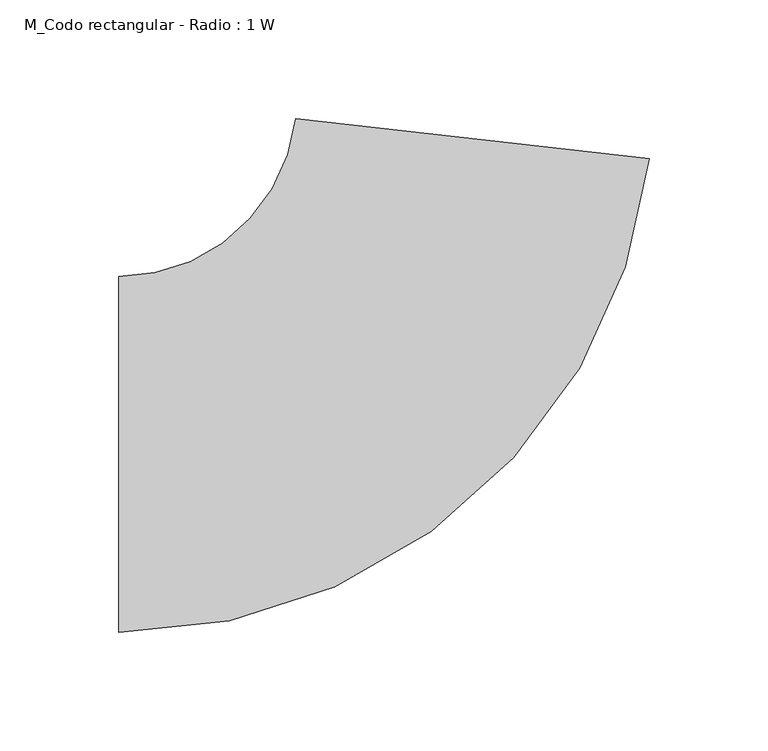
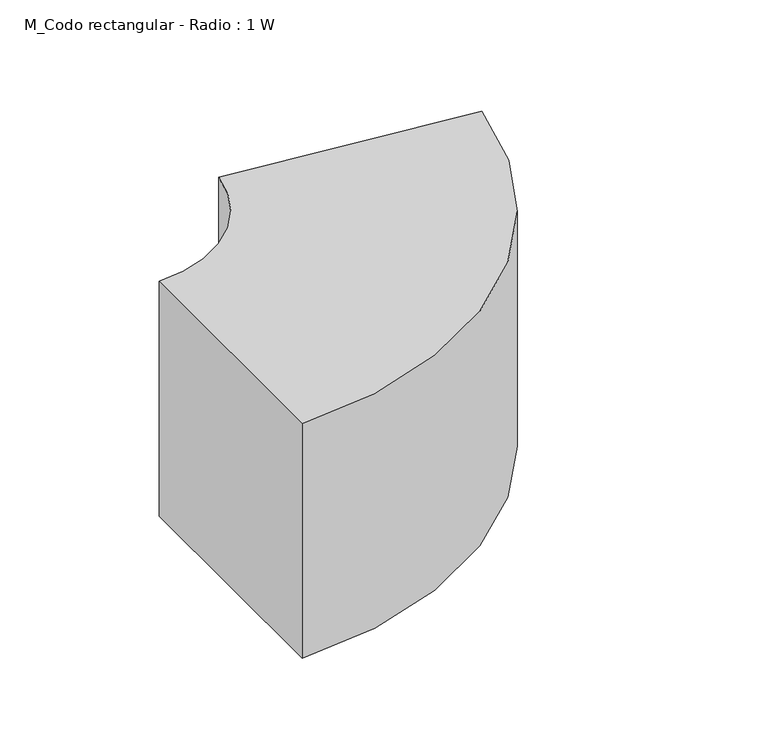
"""IFC4 building model written with IfcOpenShell, lengths in millimetres: duct fitting geometry, M_Codo rectangular - Radio : 1 W."""

from ifc_helpers import new_model, si_unit, point, frame, frame_2d, origin, place, context, project, spatial, polyline, circle_curve, trimmed, segment, composite_curve, outline, extrude, source, transform, mapped, element, save


def m_codo_rectangular_radio_1_w_f3b8a43e(model_context):
    return source(origin(), model_context, "Body", "SweptSolid", [
        extrude(outline(composite_curve([segment(trimmed(circle_curve(frame_2d((-134.051798, 150.0)), 225.0), [point((89.5341219, 124.8139638))], [point((-134.051798, -75.0))], False, "CARTESIAN"), True, "CONTINUOUS"), segment(polyline([(-134.051798, -75.0), (-134.051798, 75.0)]), True, "CONTINUOUS"), segment(trimmed(circle_curve(frame_2d((-134.051798, 150.0)), 75.0), [point((-134.051798, 75.0))], [point((-59.523158, 141.6046546))], True, "CARTESIAN"), True, "CONTINUOUS"), segment(polyline([(-59.523158, 141.6046546), (89.5341219, 124.8139638)]), True, "CONTINUOUS")], self_intersect=False)), frame((0.0, 0.0, -75.0), z_axis=(0.0, 0.0, 1.0), x_axis=(1.0, 0.0, 0.0)), (0.0, 0.0, 1.0), 150.0),
    ])


if __name__ == "__main__":
    model = new_model("IFC4")
    model_context = context("Model", 3, world=origin())
    ifc_project = project(units=[si_unit("LENGTHUNIT", "METRE", prefix="MILLI")], contexts=[model_context])
    site = spatial("IfcSite", under=ifc_project)
    building = spatial("IfcBuilding", under=site)
    placement = place(None, origin())
    m_codo_rectangular_radio_1_w_shape = m_codo_rectangular_radio_1_w_f3b8a43e(model_context)
    element("IfcDuctFitting", 1, ObjectType="M_Codo rectangular - Radio : 1 W", at=placement, inside=building, context=model_context, shape_type="MappedRepresentation", body=[
        mapped(m_codo_rectangular_radio_1_w_shape, transform((0.0, 0.0, 0.0), x_axis=(1.0, 0.0, 0.0), y_axis=(0.0, 1.0, 0.0), z_axis=(0.0, 0.0, 1.0))),
    ])
    save(model, "model.ifc")
